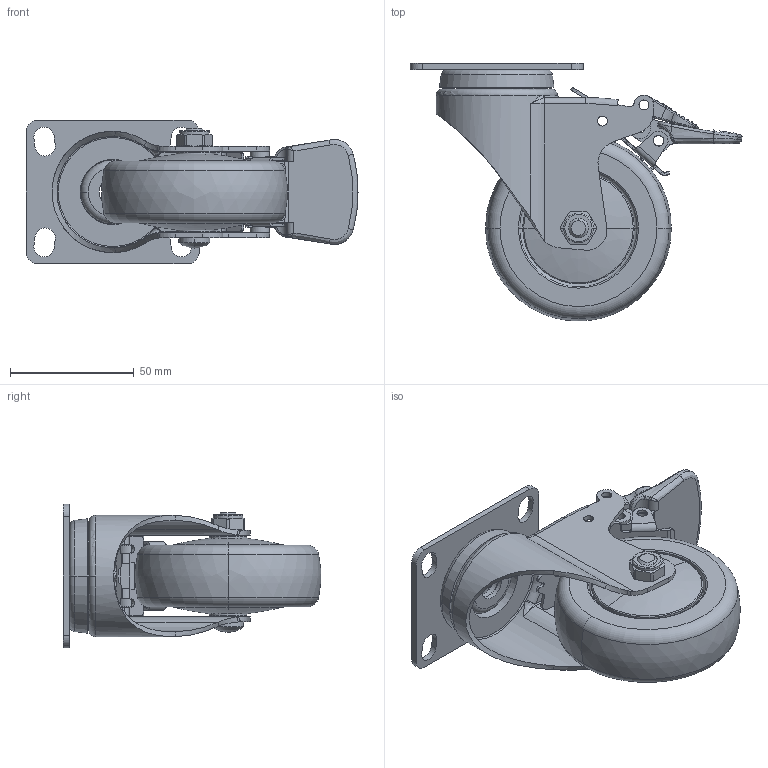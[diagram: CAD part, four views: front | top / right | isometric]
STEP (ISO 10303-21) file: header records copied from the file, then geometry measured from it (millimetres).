
FILE_DESCRIPTION((''),'2;1');
FILE_NAME('37123H_ASM','2026-07-09T',('Lenovo'),(''),'PRO/ENGINEER BY PARAMETRIC TECHNOLOGY CORPORATION, 2010280','PRO/ENGINEER BY PARAMETRIC TECHNOLOGY CORPORATION, 2010280','');
FILE_SCHEMA(('CONFIG_CONTROL_DESIGN'));
Length unit declared in the file: millimetre
Products named in the file (12): 3713-321; 360-01; 360-03; 373-907; 373-69; 373-77_ASM; 350-33A; 300-34; 370-64; 371-64; 37125-401; 37123H_ASM
Assembly tree (12 placements, depth 3):
  37123H_ASM
    3713-321
    360-01
    360-03
    373-77_ASM
      373-907
      373-69  x2
    350-33A
    300-34
    370-64
    371-64
    37125-401
Bounding box: 133.99 x 103.9 x 58 mm (x, y, z)
Volume: 140178 mm3; surface area: 73585.6 mm2
Topology: 11 solids, 11 shells, 884 faces, 2171 edges, 1328 vertices
Faces by surface type: plane 356, cylinder 254, bspline 150, torus 82, cone 40, sphere 2
Entity records: 33531 total; most frequent: CARTESIAN_POINT 13676, ORIENTED_EDGE 4218, DIRECTION 3886, EDGE_CURVE 2109, AXIS2_PLACEMENT_3D 1391, VERTEX_POINT 1294, VECTOR 1104, LINE 1104
